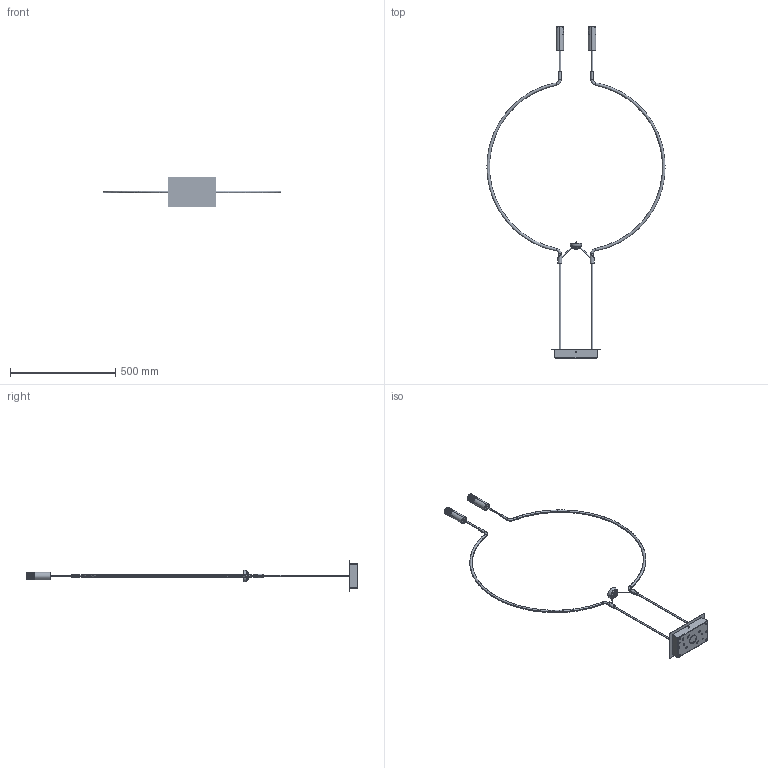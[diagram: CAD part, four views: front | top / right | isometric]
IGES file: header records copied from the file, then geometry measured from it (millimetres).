
Start section: SolidWorks IGES file using analytic representation for surfaces
Global section: file name: \\STORAGE\Tecnico Condiviso\10 NUOVI PROGETTI IN SVILUPPO\NUOVI PROGETTI AXO\AXO058 LIAISON\DRAW\3D\20180830-LIAISON SP2 ROSONE\wetransfer-7ac72d\Pack and Go 1.0A.AXO01.LS08.A1\SPLIAIM2XXXXLED-PER 3D.IGS; native system: SolidWorks 2018; preprocessor: SolidWorks 2018; author: tecnico3; date: 180831.082855; units: millimetre
Bounding box: 843.98 x 1573.95 x 145 mm (x, y, z)
Surface area: 512725 mm2 (no closed solid volume)
Topology: 0 solids, 0 shells, 1348 faces, 21340 edges, 21312 vertices
Faces by surface type: revolution 676, bspline 672
